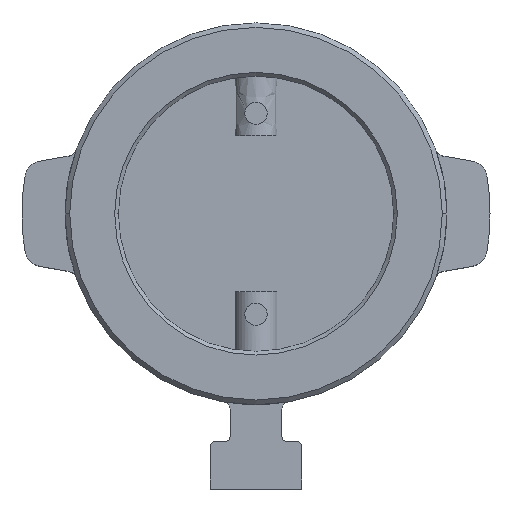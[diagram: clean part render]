
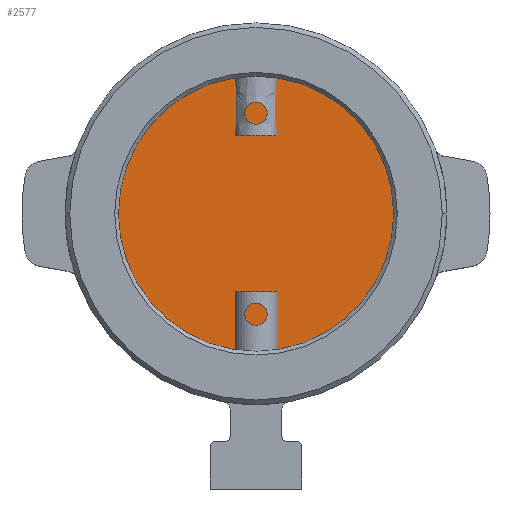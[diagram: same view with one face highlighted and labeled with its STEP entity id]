
A CAD part, top view. The second image highlights one B-rep face of the part: STEP entity #2577.
In plain terms, the highlighted planar face has unit normal (0, 0, 1).
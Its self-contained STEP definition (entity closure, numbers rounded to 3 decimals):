
#2507=CARTESIAN_POINT('',(75.0,0.0,24.0));
#2508=VERTEX_POINT('',#2507);
#2517=CARTESIAN_POINT('',(-75.0,0.,24.0));
#2518=VERTEX_POINT('',#2517);
#2519=CARTESIAN_POINT('',(0.0,0.0,24.0));
#2520=DIRECTION('',(0.0,0.0,1.0));
#2521=DIRECTION('',(1.0,0.0,0.0));
#2522=AXIS2_PLACEMENT_3D('',#2519,#2520,#2521);
#2523=CIRCLE('',#2522,75.0);
#2524=EDGE_CURVE('',#2518,#2508,#2523,.T.);
#2558=CARTESIAN_POINT('',(0.0,0.0,24.0));
#2559=DIRECTION('',(0.0,0.0,1.0));
#2560=DIRECTION('',(1.0,0.0,0.0));
#2561=AXIS2_PLACEMENT_3D('',#2558,#2559,#2560);
#2562=CIRCLE('',#2561,75.0);
#2563=EDGE_CURVE('',#2508,#2518,#2562,.T.);
#2568=CARTESIAN_POINT('',(0.0,0.0,24.0));
#2569=DIRECTION('',(0.0,0.0,1.0));
#2570=DIRECTION('',(-1.0,0.0,0.0));
#2571=AXIS2_PLACEMENT_3D('',#2568,#2569,#2570);
#2572=PLANE('',#2571);
#2573=ORIENTED_EDGE('',*,*,#2563,.T.);
#2574=ORIENTED_EDGE('',*,*,#2524,.T.);
#2575=EDGE_LOOP('',(#2573,#2574));
#2576=FACE_OUTER_BOUND('',#2575,.T.);
#2577=ADVANCED_FACE('',(#2576),#2572,.T.);
